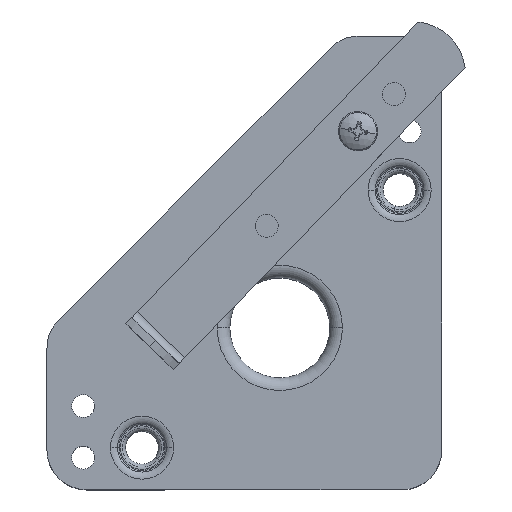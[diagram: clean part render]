
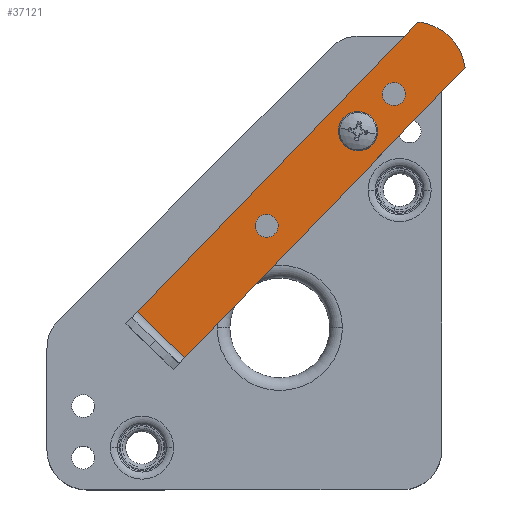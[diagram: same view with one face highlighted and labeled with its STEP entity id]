
A CAD part, top view. The second image highlights one B-rep face of the part: STEP entity #37121.
In plain terms, the highlighted planar face has unit normal (0, 0, 1).
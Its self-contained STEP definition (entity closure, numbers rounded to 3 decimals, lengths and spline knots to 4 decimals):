
#152 = EDGE_CURVE ( 'NONE', #9010, #15158, #5310, .T. ) ;
#1807 = FACE_BOUND ( 'NONE', #47229, .T. ) ;
#2131 = DIRECTION ( 'NONE',  ( -0.719, 0.695, 0. ) ) ;
#2864 = ORIENTED_EDGE ( 'NONE', *, *, #8976, .F. ) ;
#5199 = CARTESIAN_POINT ( 'NONE',  ( -1.6637, 2.5071, 0.302 ) ) ;
#5202 = ORIENTED_EDGE ( 'NONE', *, *, #24546, .F. ) ;
#5310 = CIRCLE ( 'NONE', #9907, 0.1094 ) ;
#6079 = AXIS2_PLACEMENT_3D ( 'NONE', #36741, #45290, #41186 ) ;
#8042 = AXIS2_PLACEMENT_3D ( 'NONE', #5199, #17841, #34935 ) ;
#8275 = EDGE_CURVE ( 'NONE', #46585, #20322, #14106, .T. ) ;
#8976 = EDGE_CURVE ( 'NONE', #15419, #27860, #12733, .T. ) ;
#9010 = VERTEX_POINT ( 'NONE', #29282 ) ;
#9907 = AXIS2_PLACEMENT_3D ( 'NONE', #38814, #30094, #21547 ) ;
#11112 = FACE_BOUND ( 'NONE', #44994, .T. ) ;
#11465 = AXIS2_PLACEMENT_3D ( 'NONE', #16874, #46623, #21154 ) ;
#12733 = CIRCLE ( 'NONE', #6079, 0.1093 ) ;
#13437 = DIRECTION ( 'NONE',  ( 0., 0., 1. ) ) ;
#14106 = CIRCLE ( 'NONE', #24554, 0.5 ) ;
#14711 = DIRECTION ( 'NONE',  ( 0., 0., 1. ) ) ;
#15158 = VERTEX_POINT ( 'NONE', #44831 ) ;
#15398 = DIRECTION ( 'NONE',  ( 0., 0., 1. ) ) ;
#15419 = VERTEX_POINT ( 'NONE', #16921 ) ;
#16874 = CARTESIAN_POINT ( 'NONE',  ( -0.4545, 3.7584, 0.302 ) ) ;
#16921 = CARTESIAN_POINT ( 'NONE',  ( -1.5877, 2.5858, 0.302 ) ) ;
#17841 = DIRECTION ( 'NONE',  ( 0., 0., 1. ) ) ;
#18420 = DIRECTION ( 'NONE',  ( -0.695, -0.719, 0. ) ) ;
#20204 = LINE ( 'NONE', #30029, #32164 ) ;
#20322 = VERTEX_POINT ( 'NONE', #41859 ) ;
#20844 = EDGE_CURVE ( 'NONE', #20880, #53392, #40204, .T. ) ;
#20880 = VERTEX_POINT ( 'NONE', #53416 ) ;
#21119 = DIRECTION ( 'NONE',  ( 0.695, 0.719, 0. ) ) ;
#21154 = DIRECTION ( 'NONE',  ( -0.695, -0.719, 0. ) ) ;
#21547 = DIRECTION ( 'NONE',  ( -0.695, -0.719, 0. ) ) ;
#23057 = CIRCLE ( 'NONE', #53699, 0.1094 ) ;
#23070 = DIRECTION ( 'NONE',  ( -0.695, -0.719, 0. ) ) ;
#23937 = DIRECTION ( 'NONE',  ( -0.695, -0.719, 0. ) ) ;
#24546 = EDGE_CURVE ( 'NONE', #27860, #15419, #51245, .T. ) ;
#24554 = AXIS2_PLACEMENT_3D ( 'NONE', #40135, #14711, #23070 ) ;
#25133 = CARTESIAN_POINT ( 'NONE',  ( -2.9444, 1.6315, 0.302 ) ) ;
#25689 = ORIENTED_EDGE ( 'NONE', *, *, #20844, .F. ) ;
#25907 = CARTESIAN_POINT ( 'NONE',  ( -0.4545, 3.7584, 0.302 ) ) ;
#25959 = CARTESIAN_POINT ( 'NONE',  ( -1.7396, 2.4285, 0.302 ) ) ;
#26471 = DIRECTION ( 'NONE',  ( -0.695, -0.719, 0. ) ) ;
#27366 = EDGE_CURVE ( 'NONE', #15158, #9010, #23057, .T. ) ;
#27860 = VERTEX_POINT ( 'NONE', #25959 ) ;
#27867 = CARTESIAN_POINT ( 'NONE',  ( -0.2738, 3.9453, 0.302 ) ) ;
#29282 = CARTESIAN_POINT ( 'NONE',  ( -0.871, 3.3274, 0.302 ) ) ;
#29386 = DIRECTION ( 'NONE',  ( -0.695, -0.719, 0. ) ) ;
#29426 = CARTESIAN_POINT ( 'NONE',  ( -0.3785, 3.837, 0.302 ) ) ;
#29492 = ORIENTED_EDGE ( 'NONE', *, *, #27366, .F. ) ;
#30029 = CARTESIAN_POINT ( 'NONE',  ( -2.495, 1.1972, 0.302 ) ) ;
#30076 = EDGE_CURVE ( 'NONE', #53392, #20880, #40603, .T. ) ;
#30094 = DIRECTION ( 'NONE',  ( 0., 0., 1. ) ) ;
#32164 = VECTOR ( 'NONE', #21119, 39.3701 ) ;
#33863 = ORIENTED_EDGE ( 'NONE', *, *, #41965, .T. ) ;
#34367 = FACE_OUTER_BOUND ( 'NONE', #54602, .T. ) ;
#34935 = DIRECTION ( 'NONE',  ( -0.695, -0.719, 0. ) ) ;
#35868 = VERTEX_POINT ( 'NONE', #37556 ) ;
#36216 = PLANE ( 'NONE',  #45175 ) ;
#36741 = CARTESIAN_POINT ( 'NONE',  ( -1.6637, 2.5071, 0.302 ) ) ;
#37121 = ADVANCED_FACE ( 'NONE', ( #1807, #11112, #39708, #34367 ), #36216, .T. ) ;
#37553 = LINE ( 'NONE', #48764, #39508 ) ;
#37556 = CARTESIAN_POINT ( 'NONE',  ( -2.4394, 1.2547, 0.302 ) ) ;
#38351 = EDGE_LOOP ( 'NONE', ( #43718, #29492 ) ) ;
#38435 = EDGE_CURVE ( 'NONE', #35868, #47894, #37553, .T. ) ;
#38665 = ORIENTED_EDGE ( 'NONE', *, *, #50855, .T. ) ;
#38814 = CARTESIAN_POINT ( 'NONE',  ( -0.795, 3.406, 0.302 ) ) ;
#39300 = LINE ( 'NONE', #25133, #39953 ) ;
#39508 = VECTOR ( 'NONE', #2131, 39.3701 ) ;
#39708 = FACE_BOUND ( 'NONE', #38351, .T. ) ;
#39770 = CARTESIAN_POINT ( 'NONE',  ( -0.795, 3.406, 0.302 ) ) ;
#39953 = VECTOR ( 'NONE', #29386, 39.3701 ) ;
#40135 = CARTESIAN_POINT ( 'NONE',  ( -0.2738, 3.9453, 0.302 ) ) ;
#40204 = CIRCLE ( 'NONE', #11465, 0.1094 ) ;
#40603 = CIRCLE ( 'NONE', #46725, 0.1094 ) ;
#41186 = DIRECTION ( 'NONE',  ( -0.695, -0.719, 0. ) ) ;
#41859 = CARTESIAN_POINT ( 'NONE',  ( -0.2273, 4.4431, 0.302 ) ) ;
#41965 = EDGE_CURVE ( 'NONE', #20322, #47894, #39300, .T. ) ;
#42285 = CARTESIAN_POINT ( 'NONE',  ( -2.8888, 1.6891, 0.302 ) ) ;
#42956 = ORIENTED_EDGE ( 'NONE', *, *, #30076, .F. ) ;
#43718 = ORIENTED_EDGE ( 'NONE', *, *, #152, .F. ) ;
#43860 = DIRECTION ( 'NONE',  ( 0., 0., 1. ) ) ;
#44831 = CARTESIAN_POINT ( 'NONE',  ( -0.719, 3.4846, 0.302 ) ) ;
#44994 = EDGE_LOOP ( 'NONE', ( #25689, #42956 ) ) ;
#45175 = AXIS2_PLACEMENT_3D ( 'NONE', #27867, #15398, #23937 ) ;
#45290 = DIRECTION ( 'NONE',  ( 0., 0., 1. ) ) ;
#46203 = ORIENTED_EDGE ( 'NONE', *, *, #38435, .F. ) ;
#46585 = VERTEX_POINT ( 'NONE', #52155 ) ;
#46623 = DIRECTION ( 'NONE',  ( 0., 0., 1. ) ) ;
#46725 = AXIS2_PLACEMENT_3D ( 'NONE', #25907, #13437, #26471 ) ;
#47229 = EDGE_LOOP ( 'NONE', ( #5202, #2864 ) ) ;
#47894 = VERTEX_POINT ( 'NONE', #42285 ) ;
#48764 = CARTESIAN_POINT ( 'NONE',  ( -2.4394, 1.2547, 0.302 ) ) ;
#49054 = ORIENTED_EDGE ( 'NONE', *, *, #8275, .T. ) ;
#50855 = EDGE_CURVE ( 'NONE', #35868, #46585, #20204, .T. ) ;
#51245 = CIRCLE ( 'NONE', #8042, 0.1093 ) ;
#52155 = CARTESIAN_POINT ( 'NONE',  ( 0.2221, 4.0088, 0.302 ) ) ;
#53392 = VERTEX_POINT ( 'NONE', #29426 ) ;
#53416 = CARTESIAN_POINT ( 'NONE',  ( -0.5305, 3.6797, 0.302 ) ) ;
#53699 = AXIS2_PLACEMENT_3D ( 'NONE', #39770, #43860, #18420 ) ;
#54602 = EDGE_LOOP ( 'NONE', ( #33863, #46203, #38665, #49054 ) ) ;
